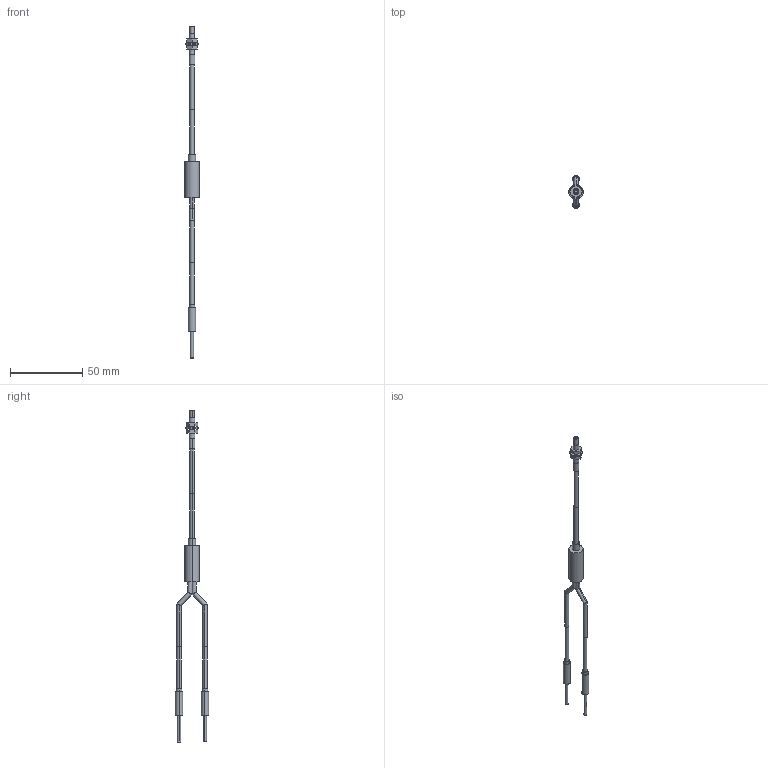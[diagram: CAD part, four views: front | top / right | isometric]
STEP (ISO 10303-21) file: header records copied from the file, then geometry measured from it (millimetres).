
FILE_DESCRIPTION (( 'STEP AP203' ), '1' );
FILE_NAME ('FD-H20-21.STEP', '2005-11-09T08:03:45', ( '' ), ( '' ), 'SwSTEP 2.0', 'SolidWorks 2004073', '' );
FILE_SCHEMA (( 'CONFIG_CONTROL_DESIGN' ));
Length unit declared in the file: millimetre
Products named in the file (1): FD-H20-21
Bounding box: 10 x 23 x 230 mm (x, y, z)
Volume: 4876.6 mm3; surface area: 4741 mm2
Topology: 9 solids, 9 shells, 94 faces, 188 edges, 124 vertices
Faces by surface type: cylinder 51, plane 43
Entity records: 2539 total; most frequent: DIRECTION 452, CARTESIAN_POINT 443, ORIENTED_EDGE 376, EDGE_CURVE 188, AXIS2_PLACEMENT_3D 181, VERTEX_POINT 124, EDGE_LOOP 112, ADVANCED_FACE 94
